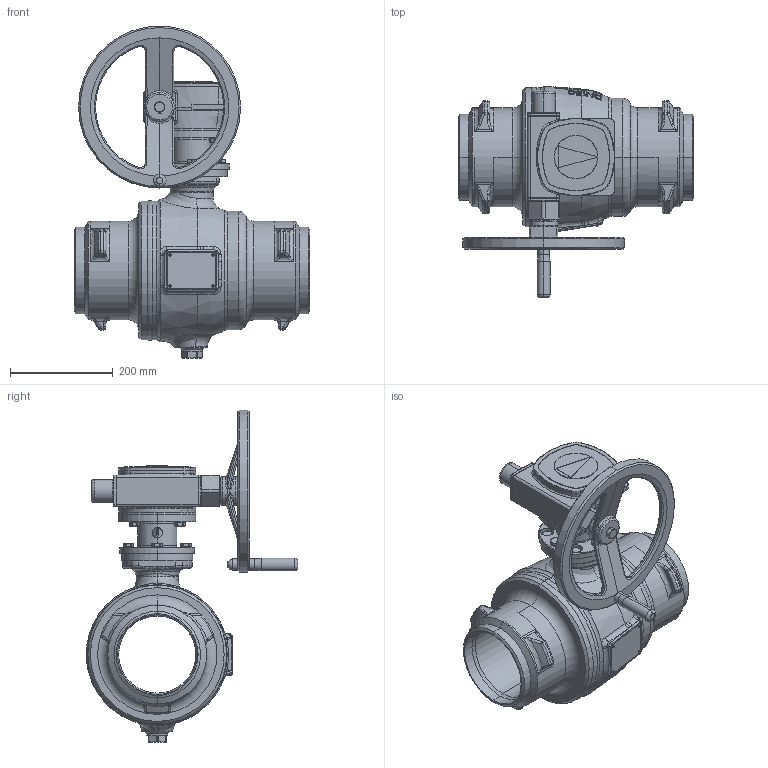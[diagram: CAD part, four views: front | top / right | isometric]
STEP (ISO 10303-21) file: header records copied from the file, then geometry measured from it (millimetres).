
FILE_DESCRIPTION((''),'2;1');
FILE_NAME('KHSVI_150_GS63_AHR_ASM','2016-04-29T',('schwaba'),('RAND'),'PRO/ENGINEER BY PARAMETRIC TECHNOLOGY CORPORATION, 2013410','PRO/ENGINEER BY PARAMETRIC TECHNOLOGY CORPORATION, 2013410','');
FILE_SCHEMA(('CONFIG_CONTROL_DESIGN'));
Products named in the file (12): KHISL150VSL150P040MKK_SW0001; PRT0001; PRT0002; PRT0003; ASM0007_ASM; PRT0004; AHR_315_20_M_BALLENGRIFF_1; DIN933_M12X25_8_8_GEW_KOPF_1; DIN933_M12X30_8_8_GEW_KOPF_1; ASM0001_ASM_1_ASM; GS63_150_ASM; KHSVI_150_GS63_AHR_ASM
Assembly tree (17 placements, depth 5):
  KHSVI_150_GS63_AHR_ASM
    KHISL150VSL150P040MKK_SW0001
    GS63_150_ASM
      ASM0001_ASM_1_ASM
        ASM0007_ASM
          PRT0001
          PRT0002
          PRT0003
        PRT0004
        AHR_315_20_M_BALLENGRIFF_1
        DIN933_M12X25_8_8_GEW_KOPF_1  x4
        DIN933_M12X30_8_8_GEW_KOPF_1  x4
Bounding box: 457 x 410.93 x 645.5 mm (x, y, z)
Volume: 11114510 mm3; surface area: 1567230 mm2
Topology: 14 solids, 20 shells, 2428 faces, 6123 edges, 3817 vertices
Faces by surface type: plane 1060, cylinder 480, cone 295, bspline 264, torus 257, sphere 72
Entity records: 112284 total; most frequent: CARTESIAN_POINT 59185, ORIENTED_EDGE 11278, DIRECTION 11242, EDGE_CURVE 5639, AXIS2_PLACEMENT_3D 4776, VERTEX_POINT 3505, CIRCLE 2748, EDGE_LOOP 2412
